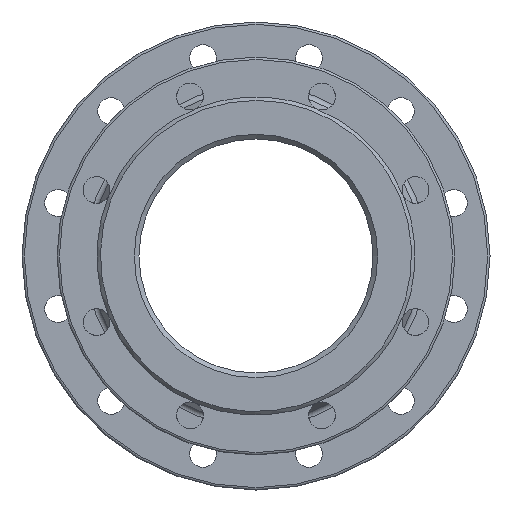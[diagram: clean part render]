
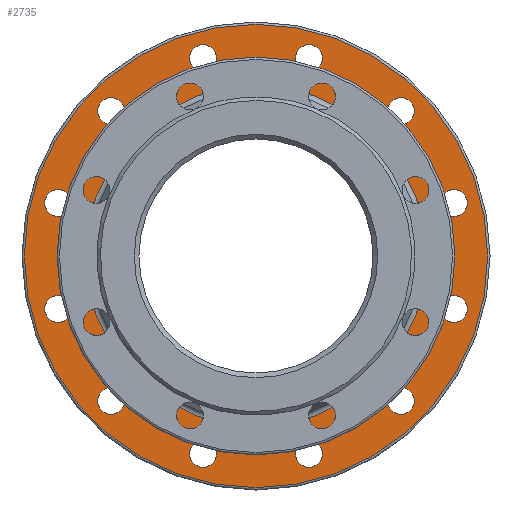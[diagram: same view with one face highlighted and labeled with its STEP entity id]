
A CAD part, left-side view. The second image highlights one B-rep face of the part: STEP entity #2735.
In plain terms, the highlighted planar face has unit normal (-1, 0, 0).
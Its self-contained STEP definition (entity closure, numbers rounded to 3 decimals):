
#29 = ORIENTED_EDGE ( 'NONE', *, *, #2364, .T. ) ;
#56 = ORIENTED_EDGE ( 'NONE', *, *, #1593, .T. ) ;
#69 = ORIENTED_EDGE ( 'NONE', *, *, #194, .T. ) ;
#80 = EDGE_LOOP ( 'NONE', ( #118 ) ) ;
#99 = DIRECTION ( 'NONE',  ( 0., 0., -1. ) ) ;
#116 = VERTEX_POINT ( 'NONE', #1630 ) ;
#118 = ORIENTED_EDGE ( 'NONE', *, *, #1675, .T. ) ;
#132 = ORIENTED_EDGE ( 'NONE', *, *, #1217, .T. ) ;
#165 = DIRECTION ( 'NONE',  ( 1., 0., 0. ) ) ;
#181 = CARTESIAN_POINT ( 'NONE',  ( 278., -45.293, 169.037 ) ) ;
#194 = EDGE_CURVE ( 'NONE', #910, #910, #988, .T. ) ;
#198 = EDGE_CURVE ( 'NONE', #1540, #1540, #1113, .T. ) ;
#201 = CARTESIAN_POINT ( 'NONE',  ( 278., 123.744, -135.244 ) ) ;
#216 = FACE_OUTER_BOUND ( 'NONE', #1054, .T. ) ;
#227 = AXIS2_PLACEMENT_3D ( 'NONE', #2290, #2519, #381 ) ;
#238 = FACE_BOUND ( 'NONE', #558, .T. ) ;
#252 = DIRECTION ( 'NONE',  ( 0., 0., -1. ) ) ;
#259 = CARTESIAN_POINT ( 'NONE',  ( 278., 142.5, 0. ) ) ;
#268 = AXIS2_PLACEMENT_3D ( 'NONE', #181, #861, #2746 ) ;
#290 = EDGE_LOOP ( 'NONE', ( #1820 ) ) ;
#305 = CARTESIAN_POINT ( 'NONE',  ( 278., 45.293, 157.537 ) ) ;
#344 = DIRECTION ( 'NONE',  ( 1., 0., 0. ) ) ;
#381 = DIRECTION ( 'NONE',  ( 0., 0., -1. ) ) ;
#386 = CARTESIAN_POINT ( 'NONE',  ( 278., -45.293, -180.537 ) ) ;
#402 = AXIS2_PLACEMENT_3D ( 'NONE', #2257, #2513, #1681 ) ;
#453 = CIRCLE ( 'NONE', #1074, 11.5 ) ;
#461 = CARTESIAN_POINT ( 'NONE',  ( 278., 45.293, 169.037 ) ) ;
#515 = EDGE_LOOP ( 'NONE', ( #1794 ) ) ;
#558 = EDGE_LOOP ( 'NONE', ( #132 ) ) ;
#581 = CARTESIAN_POINT ( 'NONE',  ( 278., -45.293, -169.037 ) ) ;
#613 = EDGE_LOOP ( 'NONE', ( #2391 ) ) ;
#623 = EDGE_LOOP ( 'NONE', ( #69 ) ) ;
#645 = DIRECTION ( 'NONE',  ( 0., 0., -1. ) ) ;
#695 = CARTESIAN_POINT ( 'NONE',  ( 278., -123.744, 112.244 ) ) ;
#733 = DIRECTION ( 'NONE',  ( 1., 0., 0. ) ) ;
#773 = CIRCLE ( 'NONE', #1844, 11.5 ) ;
#794 = ORIENTED_EDGE ( 'NONE', *, *, #1429, .T. ) ;
#861 = DIRECTION ( 'NONE',  ( 1., 0., 0. ) ) ;
#867 = FACE_BOUND ( 'NONE', #2515, .T. ) ;
#877 = FACE_BOUND ( 'NONE', #891, .T. ) ;
#891 = EDGE_LOOP ( 'NONE', ( #794 ) ) ;
#910 = VERTEX_POINT ( 'NONE', #1510 ) ;
#918 = DIRECTION ( 'NONE',  ( -1., 0., 0. ) ) ;
#945 = AXIS2_PLACEMENT_3D ( 'NONE', #1122, #918, #99 ) ;
#953 = VERTEX_POINT ( 'NONE', #964 ) ;
#964 = CARTESIAN_POINT ( 'NONE',  ( 278., 123.744, 112.244 ) ) ;
#977 = VERTEX_POINT ( 'NONE', #1415 ) ;
#988 = CIRCLE ( 'NONE', #268, 11.5 ) ;
#994 = VERTEX_POINT ( 'NONE', #2410 ) ;
#995 = CIRCLE ( 'NONE', #2508, 145.685 ) ;
#1014 = CARTESIAN_POINT ( 'NONE',  ( 278., -169.037, -45.293 ) ) ;
#1040 = DIRECTION ( 'NONE',  ( 0., 0., -1. ) ) ;
#1054 = EDGE_LOOP ( 'NONE', ( #2240 ) ) ;
#1064 = EDGE_CURVE ( 'NONE', #1125, #1125, #1575, .T. ) ;
#1074 = AXIS2_PLACEMENT_3D ( 'NONE', #1559, #733, #2206 ) ;
#1087 = DIRECTION ( 'NONE',  ( 0., 0., -1. ) ) ;
#1096 = DIRECTION ( 'NONE',  ( 1., 0., 0. ) ) ;
#1113 = CIRCLE ( 'NONE', #1658, 11.5 ) ;
#1122 = CARTESIAN_POINT ( 'NONE',  ( 278., 0., 0. ) ) ;
#1125 = VERTEX_POINT ( 'NONE', #1980 ) ;
#1146 = ORIENTED_EDGE ( 'NONE', *, *, #198, .T. ) ;
#1149 = VERTEX_POINT ( 'NONE', #2048 ) ;
#1217 = EDGE_CURVE ( 'NONE', #1567, #1567, #1396, .T. ) ;
#1227 = DIRECTION ( 'NONE',  ( 0., 0., -1. ) ) ;
#1248 = AXIS2_PLACEMENT_3D ( 'NONE', #461, #1311, #1711 ) ;
#1290 = EDGE_LOOP ( 'NONE', ( #1146 ) ) ;
#1294 = FACE_BOUND ( 'NONE', #1290, .T. ) ;
#1311 = DIRECTION ( 'NONE',  ( 1., 0., 0. ) ) ;
#1312 = FACE_BOUND ( 'NONE', #1641, .T. ) ;
#1352 = CIRCLE ( 'NONE', #2685, 11.5 ) ;
#1379 = CARTESIAN_POINT ( 'NONE',  ( 278., 45.293, -169.037 ) ) ;
#1385 = CARTESIAN_POINT ( 'NONE',  ( 278., -169.037, -56.793 ) ) ;
#1396 = CIRCLE ( 'NONE', #2461, 11.5 ) ;
#1415 = CARTESIAN_POINT ( 'NONE',  ( 278., 45.293, -180.537 ) ) ;
#1417 = ORIENTED_EDGE ( 'NONE', *, *, #1894, .T. ) ;
#1426 = DIRECTION ( 'NONE',  ( 1., 0., 0. ) ) ;
#1429 = EDGE_CURVE ( 'NONE', #994, #994, #995, .T. ) ;
#1471 = ORIENTED_EDGE ( 'NONE', *, *, #1553, .T. ) ;
#1476 = CIRCLE ( 'NONE', #402, 11.5 ) ;
#1478 = AXIS2_PLACEMENT_3D ( 'NONE', #581, #344, #1040 ) ;
#1510 = CARTESIAN_POINT ( 'NONE',  ( 278., -45.293, 157.537 ) ) ;
#1540 = VERTEX_POINT ( 'NONE', #695 ) ;
#1553 = EDGE_CURVE ( 'NONE', #953, #953, #773, .T. ) ;
#1559 = CARTESIAN_POINT ( 'NONE',  ( 278., 123.744, -123.744 ) ) ;
#1567 = VERTEX_POINT ( 'NONE', #2020 ) ;
#1571 = AXIS2_PLACEMENT_3D ( 'NONE', #1014, #2047, #1227 ) ;
#1575 = CIRCLE ( 'NONE', #227, 11.5 ) ;
#1593 = EDGE_CURVE ( 'NONE', #1808, #1808, #2370, .T. ) ;
#1630 = CARTESIAN_POINT ( 'NONE',  ( 278., 0., -198. ) ) ;
#1641 = EDGE_LOOP ( 'NONE', ( #29 ) ) ;
#1658 = AXIS2_PLACEMENT_3D ( 'NONE', #2520, #165, #645 ) ;
#1675 = EDGE_CURVE ( 'NONE', #1149, #1149, #1352, .T. ) ;
#1681 = DIRECTION ( 'NONE',  ( 0., 0., -1. ) ) ;
#1691 = EDGE_LOOP ( 'NONE', ( #56 ) ) ;
#1697 = EDGE_LOOP ( 'NONE', ( #1471 ) ) ;
#1711 = DIRECTION ( 'NONE',  ( 0., 0., -1. ) ) ;
#1723 = FACE_BOUND ( 'NONE', #1828, .T. ) ;
#1750 = FACE_BOUND ( 'NONE', #80, .T. ) ;
#1768 = FACE_BOUND ( 'NONE', #1697, .T. ) ;
#1794 = ORIENTED_EDGE ( 'NONE', *, *, #2582, .T. ) ;
#1808 = VERTEX_POINT ( 'NONE', #305 ) ;
#1811 = DIRECTION ( 'NONE',  ( 1., 0., 0. ) ) ;
#1820 = ORIENTED_EDGE ( 'NONE', *, *, #1915, .T. ) ;
#1828 = EDGE_LOOP ( 'NONE', ( #1417 ) ) ;
#1844 = AXIS2_PLACEMENT_3D ( 'NONE', #2538, #1426, #2272 ) ;
#1870 = VERTEX_POINT ( 'NONE', #201 ) ;
#1894 = EDGE_CURVE ( 'NONE', #2647, #2647, #2138, .T. ) ;
#1915 = EDGE_CURVE ( 'NONE', #2472, #2472, #1476, .T. ) ;
#1929 = FACE_BOUND ( 'NONE', #623, .T. ) ;
#1941 = DIRECTION ( 'NONE',  ( 1., 0., 0. ) ) ;
#1980 = CARTESIAN_POINT ( 'NONE',  ( 278., -169.037, 33.793 ) ) ;
#1991 = CARTESIAN_POINT ( 'NONE',  ( 278., -123.744, -135.244 ) ) ;
#1994 = DIRECTION ( 'NONE',  ( 0., 0., -1. ) ) ;
#2020 = CARTESIAN_POINT ( 'NONE',  ( 278., 169.037, -56.793 ) ) ;
#2047 = DIRECTION ( 'NONE',  ( 1., 0., 0. ) ) ;
#2048 = CARTESIAN_POINT ( 'NONE',  ( 278., 169.037, 33.793 ) ) ;
#2114 = VERTEX_POINT ( 'NONE', #386 ) ;
#2129 = CARTESIAN_POINT ( 'NONE',  ( 278., 169.037, 45.293 ) ) ;
#2138 = CIRCLE ( 'NONE', #1571, 11.5 ) ;
#2142 = AXIS2_PLACEMENT_3D ( 'NONE', #259, #2606, #1087 ) ;
#2145 = FACE_BOUND ( 'NONE', #290, .T. ) ;
#2186 = FACE_BOUND ( 'NONE', #613, .T. ) ;
#2206 = DIRECTION ( 'NONE',  ( 0., 0., -1. ) ) ;
#2208 = EDGE_CURVE ( 'NONE', #116, #116, #2723, .T. ) ;
#2210 = EDGE_CURVE ( 'NONE', #977, #977, #2588, .T. ) ;
#2217 = CARTESIAN_POINT ( 'NONE',  ( 278., 0., 0. ) ) ;
#2240 = ORIENTED_EDGE ( 'NONE', *, *, #2208, .T. ) ;
#2257 = CARTESIAN_POINT ( 'NONE',  ( 278., -123.744, -123.744 ) ) ;
#2272 = DIRECTION ( 'NONE',  ( 0., 0., -1. ) ) ;
#2290 = CARTESIAN_POINT ( 'NONE',  ( 278., -169.037, 45.293 ) ) ;
#2364 = EDGE_CURVE ( 'NONE', #2114, #2114, #2460, .T. ) ;
#2370 = CIRCLE ( 'NONE', #1248, 11.5 ) ;
#2375 = CARTESIAN_POINT ( 'NONE',  ( 278., 169.037, -45.293 ) ) ;
#2385 = PLANE ( 'NONE',  #2142 ) ;
#2391 = ORIENTED_EDGE ( 'NONE', *, *, #2210, .T. ) ;
#2396 = FACE_BOUND ( 'NONE', #515, .T. ) ;
#2410 = CARTESIAN_POINT ( 'NONE',  ( 278., 0., -145.685 ) ) ;
#2413 = ORIENTED_EDGE ( 'NONE', *, *, #1064, .T. ) ;
#2460 = CIRCLE ( 'NONE', #1478, 11.5 ) ;
#2461 = AXIS2_PLACEMENT_3D ( 'NONE', #2375, #1941, #252 ) ;
#2472 = VERTEX_POINT ( 'NONE', #1991 ) ;
#2508 = AXIS2_PLACEMENT_3D ( 'NONE', #2217, #1811, #1994 ) ;
#2513 = DIRECTION ( 'NONE',  ( 1., 0., 0. ) ) ;
#2515 = EDGE_LOOP ( 'NONE', ( #2413 ) ) ;
#2519 = DIRECTION ( 'NONE',  ( 1., 0., 0. ) ) ;
#2520 = CARTESIAN_POINT ( 'NONE',  ( 278., -123.744, 123.744 ) ) ;
#2538 = CARTESIAN_POINT ( 'NONE',  ( 278., 123.744, 123.744 ) ) ;
#2565 = FACE_BOUND ( 'NONE', #1691, .T. ) ;
#2576 = DIRECTION ( 'NONE',  ( 0., 0., -1. ) ) ;
#2582 = EDGE_CURVE ( 'NONE', #1870, #1870, #453, .T. ) ;
#2588 = CIRCLE ( 'NONE', #2679, 11.5 ) ;
#2606 = DIRECTION ( 'NONE',  ( 1., 0., 0. ) ) ;
#2614 = DIRECTION ( 'NONE',  ( 0., 0., -1. ) ) ;
#2647 = VERTEX_POINT ( 'NONE', #1385 ) ;
#2656 = DIRECTION ( 'NONE',  ( 1., 0., 0. ) ) ;
#2679 = AXIS2_PLACEMENT_3D ( 'NONE', #1379, #2656, #2614 ) ;
#2685 = AXIS2_PLACEMENT_3D ( 'NONE', #2129, #1096, #2576 ) ;
#2723 = CIRCLE ( 'NONE', #945, 198. ) ;
#2735 = ADVANCED_FACE ( 'NONE', ( #877, #216, #2396, #238, #1750, #1768, #2565, #1929, #1294, #867, #1723, #2145, #1312, #2186 ), #2385, .F. ) ;
#2746 = DIRECTION ( 'NONE',  ( 0., 0., -1. ) ) ;
